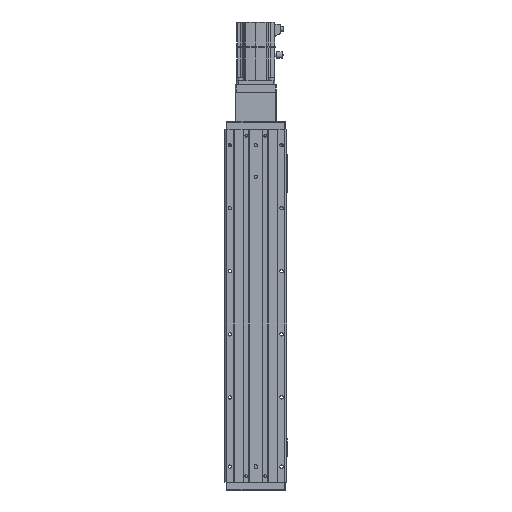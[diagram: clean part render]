
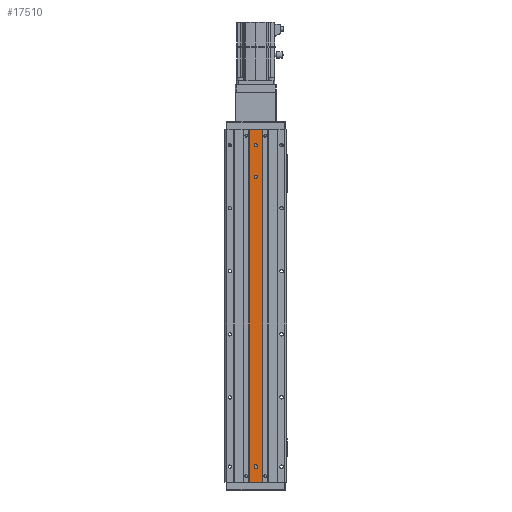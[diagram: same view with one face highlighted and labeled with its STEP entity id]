
A CAD part, front view. The second image highlights one B-rep face of the part: STEP entity #17510.
In plain terms, the highlighted planar face has unit normal (0, -1, 0).
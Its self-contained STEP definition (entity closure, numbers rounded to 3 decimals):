
#13 = ORIENTED_EDGE ( 'NONE', *, *, #2743, .T. ) ;
#982 = DIRECTION ( 'NONE',  ( 0., -1., 0. ) ) ;
#1084 = CARTESIAN_POINT ( 'NONE',  ( 2.5, 1., 205. ) ) ;
#2197 = CARTESIAN_POINT ( 'NONE',  ( -2.5, 1., 205. ) ) ;
#2340 = FACE_BOUND ( 'NONE', #43516, .T. ) ;
#2613 = CIRCLE ( 'NONE', #27805, 2.5 ) ;
#2743 = EDGE_CURVE ( 'NONE', #31134, #27598, #39091, .T. ) ;
#3146 = DIRECTION ( 'NONE',  ( 0., -1., 0. ) ) ;
#3164 = CIRCLE ( 'NONE', #28338, 2.5 ) ;
#3606 = ORIENTED_EDGE ( 'NONE', *, *, #26741, .F. ) ;
#4106 = LINE ( 'NONE', #17862, #8337 ) ;
#4159 = DIRECTION ( 'NONE',  ( 1., 0., 0. ) ) ;
#4285 = DIRECTION ( 'NONE',  ( 1., 0., 0. ) ) ;
#4445 = CARTESIAN_POINT ( 'NONE',  ( 2.5, 1., -254. ) ) ;
#4482 = CARTESIAN_POINT ( 'NONE',  ( 2.5, 1., -256. ) ) ;
#4756 = CARTESIAN_POINT ( 'NONE',  ( 10., 1., -280. ) ) ;
#5128 = DIRECTION ( 'NONE',  ( 1., 0., 0. ) ) ;
#6074 = LINE ( 'NONE', #19815, #32511 ) ;
#6454 = EDGE_CURVE ( 'NONE', #27598, #30582, #4106, .T. ) ;
#7315 = DIRECTION ( 'NONE',  ( 0., 0., 1. ) ) ;
#7684 = EDGE_CURVE ( 'NONE', #27641, #19570, #2613, .T. ) ;
#7744 = EDGE_CURVE ( 'NONE', #31134, #24615, #43566, .T. ) ;
#7765 = DIRECTION ( 'NONE',  ( 0., -1., 0. ) ) ;
#7902 = CARTESIAN_POINT ( 'NONE',  ( -2.5, 1., -254. ) ) ;
#7962 = CARTESIAN_POINT ( 'NONE',  ( -2.5, 1., 255. ) ) ;
#8123 = EDGE_CURVE ( 'NONE', #20383, #21575, #29331, .T. ) ;
#8282 = CARTESIAN_POINT ( 'NONE',  ( 10., 1., -280. ) ) ;
#8337 = VECTOR ( 'NONE', #31566, 1000. ) ;
#9702 = EDGE_CURVE ( 'NONE', #25814, #20383, #10938, .T. ) ;
#10609 = ORIENTED_EDGE ( 'NONE', *, *, #43780, .F. ) ;
#10938 = CIRCLE ( 'NONE', #36045, 2.5 ) ;
#12238 = DIRECTION ( 'NONE',  ( 0., 0., -1. ) ) ;
#12562 = EDGE_CURVE ( 'NONE', #21575, #40450, #41924, .T. ) ;
#12743 = CARTESIAN_POINT ( 'NONE',  ( -10., 1., -280. ) ) ;
#12774 = CARTESIAN_POINT ( 'NONE',  ( -10., 1., -280. ) ) ;
#13988 = CARTESIAN_POINT ( 'NONE',  ( -2.5, 1., -256. ) ) ;
#14204 = ORIENTED_EDGE ( 'NONE', *, *, #6454, .T. ) ;
#14343 = VERTEX_POINT ( 'NONE', #1084 ) ;
#14570 = CARTESIAN_POINT ( 'NONE',  ( 2.5, 1., 255. ) ) ;
#14776 = DIRECTION ( 'NONE',  ( 1., 0., 0. ) ) ;
#15729 = CARTESIAN_POINT ( 'NONE',  ( -10., 1., -280. ) ) ;
#16133 = FACE_BOUND ( 'NONE', #21134, .T. ) ;
#16924 = DIRECTION ( 'NONE',  ( 1., 0., 0. ) ) ;
#17115 = ORIENTED_EDGE ( 'NONE', *, *, #7684, .F. ) ;
#17505 = AXIS2_PLACEMENT_3D ( 'NONE', #21288, #35000, #4159 ) ;
#17510 = ADVANCED_FACE ( 'NONE', ( #33200, #2340, #16133, #29846 ), #43595, .F. ) ;
#17862 = CARTESIAN_POINT ( 'NONE',  ( -10., 1., 280. ) ) ;
#19570 = VERTEX_POINT ( 'NONE', #7962 ) ;
#19745 = ORIENTED_EDGE ( 'NONE', *, *, #7744, .F. ) ;
#19815 = CARTESIAN_POINT ( 'NONE',  ( 2.5, 1., -254. ) ) ;
#19914 = VECTOR ( 'NONE', #26432, 1000. ) ;
#19946 = VECTOR ( 'NONE', #12238, 1000. ) ;
#20383 = VERTEX_POINT ( 'NONE', #7902 ) ;
#20600 = CARTESIAN_POINT ( 'NONE',  ( -10., 1., 280. ) ) ;
#21134 = EDGE_LOOP ( 'NONE', ( #36056, #21207, #10609, #40852 ) ) ;
#21207 = ORIENTED_EDGE ( 'NONE', *, *, #9702, .F. ) ;
#21228 = EDGE_CURVE ( 'NONE', #19570, #27641, #36884, .T. ) ;
#21288 = CARTESIAN_POINT ( 'NONE',  ( 0., 1., 255. ) ) ;
#21423 = CARTESIAN_POINT ( 'NONE',  ( 0., 1., -254. ) ) ;
#21463 = DIRECTION ( 'NONE',  ( 1., 0., 0. ) ) ;
#21510 = EDGE_CURVE ( 'NONE', #25491, #14343, #37644, .T. ) ;
#21575 = VERTEX_POINT ( 'NONE', #13988 ) ;
#21984 = DIRECTION ( 'NONE',  ( 0., 0., 1. ) ) ;
#22249 = CARTESIAN_POINT ( 'NONE',  ( 0., 1., -256. ) ) ;
#22497 = AXIS2_PLACEMENT_3D ( 'NONE', #22249, #35955, #5128 ) ;
#23111 = ORIENTED_EDGE ( 'NONE', *, *, #21228, .F. ) ;
#24398 = LINE ( 'NONE', #38129, #31648 ) ;
#24615 = VERTEX_POINT ( 'NONE', #15729 ) ;
#25491 = VERTEX_POINT ( 'NONE', #2197 ) ;
#25814 = VERTEX_POINT ( 'NONE', #4445 ) ;
#26432 = DIRECTION ( 'NONE',  ( -1., 0., 0. ) ) ;
#26459 = DIRECTION ( 'NONE',  ( 0., 1., 0. ) ) ;
#26741 = EDGE_CURVE ( 'NONE', #24615, #30582, #24398, .T. ) ;
#27598 = VERTEX_POINT ( 'NONE', #41793 ) ;
#27641 = VERTEX_POINT ( 'NONE', #14570 ) ;
#27805 = AXIS2_PLACEMENT_3D ( 'NONE', #31847, #982, #14776 ) ;
#28338 = AXIS2_PLACEMENT_3D ( 'NONE', #38581, #7765, #21463 ) ;
#28425 = EDGE_LOOP ( 'NONE', ( #14204, #3606, #19745, #13 ) ) ;
#29331 = LINE ( 'NONE', #43068, #19946 ) ;
#29397 = AXIS2_PLACEMENT_3D ( 'NONE', #12774, #26459, #40202 ) ;
#29846 = FACE_OUTER_BOUND ( 'NONE', #28425, .T. ) ;
#30582 = VERTEX_POINT ( 'NONE', #20600 ) ;
#31134 = VERTEX_POINT ( 'NONE', #4756 ) ;
#31566 = DIRECTION ( 'NONE',  ( -1., 0., 0. ) ) ;
#31648 = VECTOR ( 'NONE', #7315, 1000. ) ;
#31847 = CARTESIAN_POINT ( 'NONE',  ( 0., 1., 255. ) ) ;
#32511 = VECTOR ( 'NONE', #33524, 1000. ) ;
#33200 = FACE_BOUND ( 'NONE', #43490, .T. ) ;
#33524 = DIRECTION ( 'NONE',  ( 0., 0., 1. ) ) ;
#33985 = CARTESIAN_POINT ( 'NONE',  ( 0., 1., 205. ) ) ;
#34876 = ORIENTED_EDGE ( 'NONE', *, *, #43125, .F. ) ;
#35000 = DIRECTION ( 'NONE',  ( 0., -1., 0. ) ) ;
#35133 = DIRECTION ( 'NONE',  ( 0., -1., 0. ) ) ;
#35955 = DIRECTION ( 'NONE',  ( 0., -1., 0. ) ) ;
#36045 = AXIS2_PLACEMENT_3D ( 'NONE', #21423, #35133, #4285 ) ;
#36056 = ORIENTED_EDGE ( 'NONE', *, *, #8123, .F. ) ;
#36138 = VECTOR ( 'NONE', #21984, 1000. ) ;
#36884 = CIRCLE ( 'NONE', #17505, 2.5 ) ;
#37644 = CIRCLE ( 'NONE', #43399, 2.5 ) ;
#38129 = CARTESIAN_POINT ( 'NONE',  ( -10., 1., -280. ) ) ;
#38581 = CARTESIAN_POINT ( 'NONE',  ( 0., 1., 205. ) ) ;
#39091 = LINE ( 'NONE', #8282, #36138 ) ;
#40202 = DIRECTION ( 'NONE',  ( -1., 0., 0. ) ) ;
#40450 = VERTEX_POINT ( 'NONE', #4482 ) ;
#40852 = ORIENTED_EDGE ( 'NONE', *, *, #12562, .F. ) ;
#41793 = CARTESIAN_POINT ( 'NONE',  ( 10., 1., 280. ) ) ;
#41924 = CIRCLE ( 'NONE', #22497, 2.5 ) ;
#43068 = CARTESIAN_POINT ( 'NONE',  ( -2.5, 1., -254. ) ) ;
#43125 = EDGE_CURVE ( 'NONE', #14343, #25491, #3164, .T. ) ;
#43399 = AXIS2_PLACEMENT_3D ( 'NONE', #33985, #3146, #16924 ) ;
#43490 = EDGE_LOOP ( 'NONE', ( #17115, #23111 ) ) ;
#43516 = EDGE_LOOP ( 'NONE', ( #34876, #44406 ) ) ;
#43566 = LINE ( 'NONE', #12743, #19914 ) ;
#43595 = PLANE ( 'NONE',  #29397 ) ;
#43780 = EDGE_CURVE ( 'NONE', #40450, #25814, #6074, .T. ) ;
#44406 = ORIENTED_EDGE ( 'NONE', *, *, #21510, .F. ) ;
